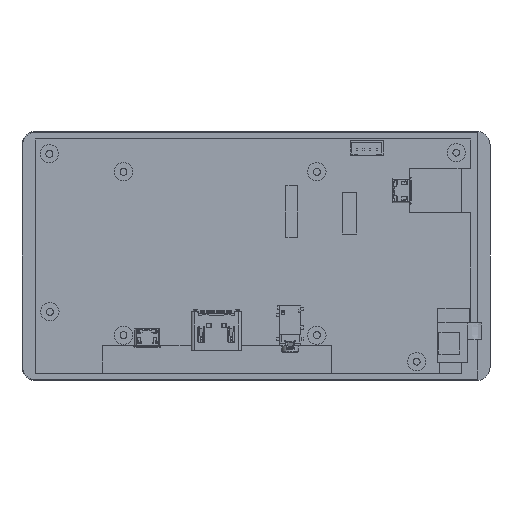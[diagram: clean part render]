
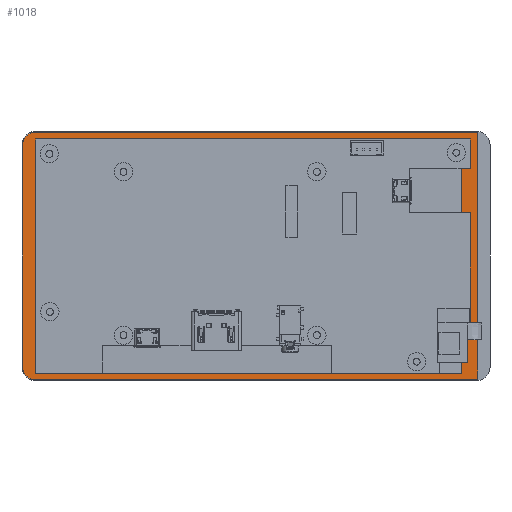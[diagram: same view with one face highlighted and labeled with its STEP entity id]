
A CAD part, front view. The second image highlights one B-rep face of the part: STEP entity #1018.
In plain terms, the highlighted planar face has unit normal (0, -1, 0).
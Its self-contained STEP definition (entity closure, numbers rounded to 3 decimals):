
#179=DIRECTION('',(0.,0.,1.));
#180=VECTOR('',#179,5.);
#181=CARTESIAN_POINT('',(66.46,-0.425,-25.085));
#182=LINE('',#181,#180);
#186=DIRECTION('',(0.,0.,-1.));
#187=VECTOR('',#186,11.545);
#188=CARTESIAN_POINT('',(66.46,-0.425,-25.085));
#189=LINE('',#188,#187);
#193=CARTESIAN_POINT('',(65.96,-0.425,-36.63));
#194=DIRECTION('',(0.,1.,0.));
#195=DIRECTION('',(1.,0.,0.));
#196=AXIS2_PLACEMENT_3D('',#193,#194,#195);
#201=DIRECTION('',(-1.,0.,0.));
#202=VECTOR('',#201,132.16);
#203=CARTESIAN_POINT('',(65.96,-0.425,-37.13));
#204=LINE('',#203,#202);
#208=CARTESIAN_POINT('',(-66.2,-0.425,-33.33));
#209=DIRECTION('',(0.,1.,0.));
#210=DIRECTION('',(0.,0.,-1.));
#211=AXIS2_PLACEMENT_3D('',#208,#209,#210);
#216=DIRECTION('',(0.,0.,1.));
#217=VECTOR('',#216,66.66);
#218=CARTESIAN_POINT('',(-70.,-0.425,-33.33));
#219=LINE('',#218,#217);
#223=CARTESIAN_POINT('',(-66.2,-0.425,33.33));
#224=DIRECTION('',(0.,1.,0.));
#225=DIRECTION('',(-1.,0.,0.));
#226=AXIS2_PLACEMENT_3D('',#223,#224,#225);
#231=DIRECTION('',(1.,0.,0.));
#232=VECTOR('',#231,132.16);
#233=CARTESIAN_POINT('',(-66.2,-0.425,37.13));
#234=LINE('',#233,#232);
#238=CARTESIAN_POINT('',(65.96,-0.425,36.63));
#239=DIRECTION('',(0.,1.,0.));
#240=DIRECTION('',(0.,0.,1.));
#241=AXIS2_PLACEMENT_3D('',#238,#239,#240);
#246=DIRECTION('',(0.,0.,-1.));
#247=VECTOR('',#246,56.715);
#248=CARTESIAN_POINT('',(66.46,-0.425,36.63));
#249=LINE('',#248,#247);
#772=CARTESIAN_POINT('',(65.96,-0.425,-37.13));
#773=CARTESIAN_POINT('',(-66.2,-0.425,-37.13));
#774=VERTEX_POINT('',#772);
#775=VERTEX_POINT('',#773);
#776=CARTESIAN_POINT('',(-70.,-0.425,-33.33));
#777=VERTEX_POINT('',#776);
#778=CARTESIAN_POINT('',(-70.,-0.425,33.33));
#779=VERTEX_POINT('',#778);
#780=CARTESIAN_POINT('',(-66.2,-0.425,37.13));
#781=VERTEX_POINT('',#780);
#782=CARTESIAN_POINT('',(65.96,-0.425,37.13));
#783=VERTEX_POINT('',#782);
#784=CARTESIAN_POINT('',(66.46,-0.425,36.63));
#785=VERTEX_POINT('',#784);
#786=CARTESIAN_POINT('',(66.46,-0.425,-36.63));
#787=VERTEX_POINT('',#786);
#816=CARTESIAN_POINT('',(66.46,-0.425,-25.085));
#817=CARTESIAN_POINT('',(66.46,-0.425,-20.085));
#818=VERTEX_POINT('',#816);
#819=VERTEX_POINT('',#817);
#994=CARTESIAN_POINT('',(0.,-0.425,0.));
#995=DIRECTION('',(0.,1.,0.));
#996=DIRECTION('',(1.,0.,0.));
#997=AXIS2_PLACEMENT_3D('',#994,#995,#996);
#998=PLANE('',#997);
#999=ORIENTED_EDGE('',*,*,#985,.F.);
#1000=ORIENTED_EDGE('',*,*,#931,.T.);
#1002=ORIENTED_EDGE('',*,*,#1001,.T.);
#1004=ORIENTED_EDGE('',*,*,#1003,.T.);
#1006=ORIENTED_EDGE('',*,*,#1005,.T.);
#1008=ORIENTED_EDGE('',*,*,#1007,.T.);
#1010=ORIENTED_EDGE('',*,*,#1009,.T.);
#1012=ORIENTED_EDGE('',*,*,#1011,.T.);
#1014=ORIENTED_EDGE('',*,*,#1013,.T.);
#1015=ORIENTED_EDGE('',*,*,#923,.T.);
#1016=EDGE_LOOP('',(#999,#1000,#1002,#1004,#1006,#1008,#1010,#1012,#1014,
#1015));
#1017=FACE_OUTER_BOUND('',#1016,.F.);
#1018=ADVANCED_FACE('',(#1017),#998,.F.);
#197=CIRCLE('',#196,0.5);
#212=CIRCLE('',#211,3.8);
#227=CIRCLE('',#226,3.8);
#242=CIRCLE('',#241,0.5);
#923=EDGE_CURVE('',#785,#819,#249,.T.);
#931=EDGE_CURVE('',#818,#787,#189,.T.);
#985=EDGE_CURVE('',#818,#819,#182,.T.);
#1001=EDGE_CURVE('',#787,#774,#197,.T.);
#1003=EDGE_CURVE('',#774,#775,#204,.T.);
#1005=EDGE_CURVE('',#775,#777,#212,.T.);
#1007=EDGE_CURVE('',#777,#779,#219,.T.);
#1009=EDGE_CURVE('',#779,#781,#227,.T.);
#1011=EDGE_CURVE('',#781,#783,#234,.T.);
#1013=EDGE_CURVE('',#783,#785,#242,.T.);
